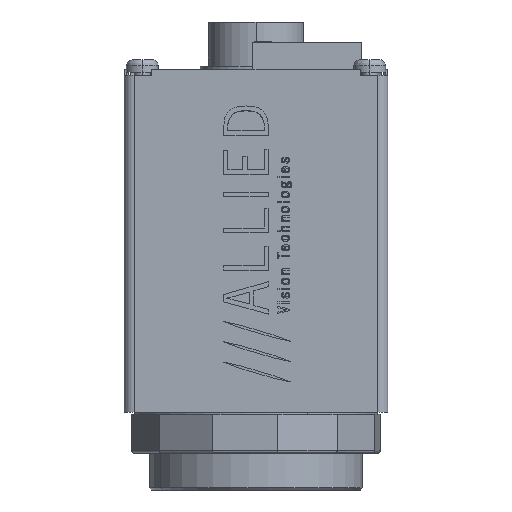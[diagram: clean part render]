
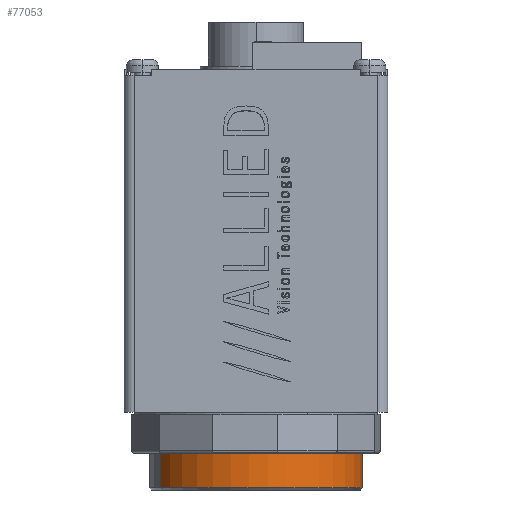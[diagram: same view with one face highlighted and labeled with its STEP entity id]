
A CAD part, left-side view. The second image highlights one B-rep face of the part: STEP entity #77053.
In plain terms, the highlighted cylindrical face has radius 13.335 mm (diameter 26.67 mm), a partial arc.
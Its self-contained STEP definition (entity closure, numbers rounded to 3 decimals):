
#16448 = DIRECTION ( 'NONE',  ( 0., 0., 1. ) ) ;
#16707 = CARTESIAN_POINT ( 'NONE',  ( 13.335, 0., 7.214 ) ) ;
#19503 = CARTESIAN_POINT ( 'NONE',  ( -13.335, 0., 7.214 ) ) ;
#21016 = CARTESIAN_POINT ( 'NONE',  ( 13.335, 0., 7.214 ) ) ;
#33493 = DIRECTION ( 'NONE',  ( 0., 0., 1. ) ) ;
#33750 = CARTESIAN_POINT ( 'NONE',  ( -13.335, 0., 7.214 ) ) ;
#36238 = VERTEX_POINT ( 'NONE', #87292 ) ;
#40112 = VERTEX_POINT ( 'NONE', #21016 ) ;
#41632 = FACE_OUTER_BOUND ( 'NONE', #103447, .T. ) ;
#45501 = EDGE_CURVE ( 'NONE', #172089, #40112, #72589, .T. ) ;
#46864 = VECTOR ( 'NONE', #16448, 1000. ) ;
#47209 = VECTOR ( 'NONE', #33493, 1000. ) ;
#47472 = CARTESIAN_POINT ( 'NONE',  ( 13.335, 0., 13.386 ) ) ;
#51096 = DIRECTION ( 'NONE',  ( 1., 0., 0. ) ) ;
#51330 = DIRECTION ( 'NONE',  ( 0., 0., 1. ) ) ;
#51485 = CARTESIAN_POINT ( 'NONE',  ( 0., 0., 7.214 ) ) ;
#51737 = LINE ( 'NONE', #33750, #47209 ) ;
#63567 = ORIENTED_EDGE ( 'NONE', *, *, #45501, .T. ) ;
#67708 = DIRECTION ( 'NONE',  ( 1., 0., 0. ) ) ;
#68954 = DIRECTION ( 'NONE',  ( 0., 0., 1. ) ) ;
#69518 = CARTESIAN_POINT ( 'NONE',  ( 0., 0., 7.214 ) ) ;
#72589 = CIRCLE ( 'NONE', #100705, 13.335 ) ;
#75710 = EDGE_CURVE ( 'NONE', #172089, #36238, #51737, .T. ) ;
#76428 = DIRECTION ( 'NONE',  ( 1., 0., 0. ) ) ;
#76577 = DIRECTION ( 'NONE',  ( 0., 0., -1. ) ) ;
#76597 = CARTESIAN_POINT ( 'NONE',  ( 0., 0., 13.386 ) ) ;
#77053 = ADVANCED_FACE ( 'NONE', ( #41632 ), #132943, .T. ) ;
#87292 = CARTESIAN_POINT ( 'NONE',  ( -13.335, 0., 13.386 ) ) ;
#90965 = ORIENTED_EDGE ( 'NONE', *, *, #137121, .T. ) ;
#100705 = AXIS2_PLACEMENT_3D ( 'NONE', #51485, #51330, #51096 ) ;
#101378 = EDGE_CURVE ( 'NONE', #125148, #36238, #128140, .T. ) ;
#103447 = EDGE_LOOP ( 'NONE', ( #112111, #63567, #90965, #174120 ) ) ;
#112111 = ORIENTED_EDGE ( 'NONE', *, *, #75710, .F. ) ;
#121617 = LINE ( 'NONE', #16707, #46864 ) ;
#125148 = VERTEX_POINT ( 'NONE', #47472 ) ;
#128140 = CIRCLE ( 'NONE', #155984, 13.335 ) ;
#132943 = CYLINDRICAL_SURFACE ( 'NONE', #143595, 13.335 ) ;
#137121 = EDGE_CURVE ( 'NONE', #40112, #125148, #121617, .T. ) ;
#143595 = AXIS2_PLACEMENT_3D ( 'NONE', #69518, #68954, #67708 ) ;
#155984 = AXIS2_PLACEMENT_3D ( 'NONE', #76597, #76577, #76428 ) ;
#172089 = VERTEX_POINT ( 'NONE', #19503 ) ;
#174120 = ORIENTED_EDGE ( 'NONE', *, *, #101378, .T. ) ;
